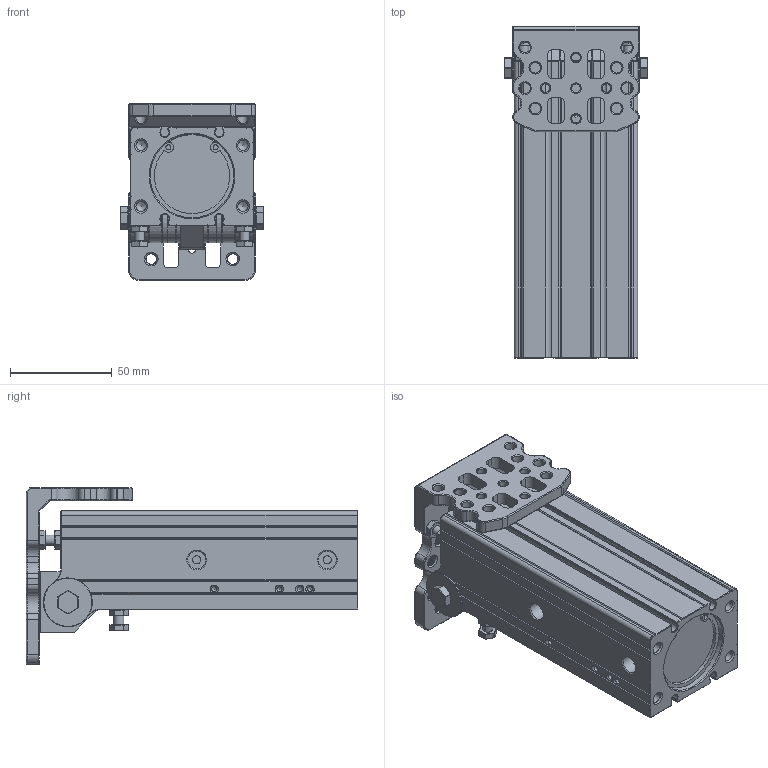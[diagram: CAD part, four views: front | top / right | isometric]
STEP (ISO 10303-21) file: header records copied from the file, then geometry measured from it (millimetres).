
FILE_DESCRIPTION(/* description */ (''),/* implementation_level */ '2;1');
FILE_NAME(/* name */ 'DHR3C-40M30ZG-LB(2022).stp',/* time_stamp */ '2022-11-02T17:19:05+08:00',/* author */ (''),/* organization */ (''),/* preprocessor_version */ 'ST-DEVELOPER v14',/* originating_system */ 'SIEMENS PLM Software NX 8.0',/* authorisation */ '');
FILE_SCHEMA (('AP203_CONFIGURATION_CONTROLLED_3D_DESIGN_OF_MECHANICAL_PARTS_AND_ASSEMBLIES_MIM_LF { 1 0 10303 403 2 1 2}'));
Products named in the file (1): Admi1648FD98p350
Bounding box: 70.5 x 162.8 x 86.8 mm (x, y, z)
Volume: 373268 mm3; surface area: 107542.2 mm2
Topology: 51 solids, 53 shells, 2033 faces, 5419 edges, 3460 vertices
Faces by surface type: plane 1386, cylinder 314, cone 199, torus 72, bspline 39, sphere 22, extrusion 1
Full cylindrical faces by diameter (mm): 2.5 x8, 3.3 x3, 4 x9, 4.2 x31, 4.5 x2, 5 x18, 5.2 x8, 8 x2, 8.7 x2, 10 x12, 14 x2, 18 x1, 24 x8, 24.002 x2, 40.8 x2, 41 x5, 43 x2
Entity records: 80244 total; most frequent: CARTESIAN_POINT 31948, ORIENTED_EDGE 9862, DIRECTION 9552, EDGE_CURVE 4931, VECTOR 3748, LINE 3747, VERTEX_POINT 3301, AXIS2_PLACEMENT_3D 2902
